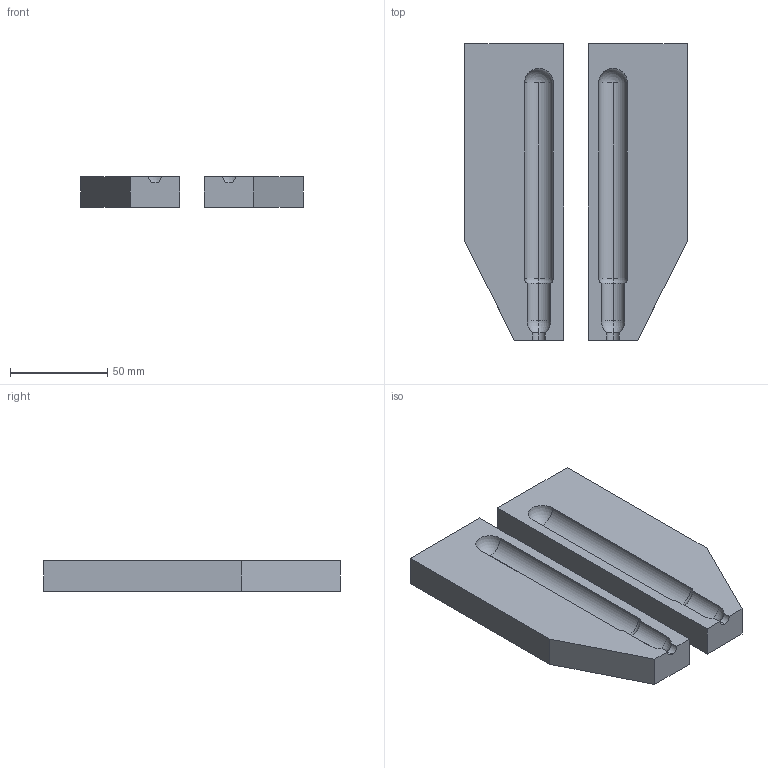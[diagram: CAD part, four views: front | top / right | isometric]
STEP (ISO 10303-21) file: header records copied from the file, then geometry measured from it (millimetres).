
FILE_DESCRIPTION (( 'STEP AP203' ), '1' );
FILE_NAME ('Sharpie_02_oversized.STEP', '2017-08-31T15:49:01', ( '' ), ( '' ), 'SwSTEP 2.0', 'SolidWorks 2015', '' );
FILE_SCHEMA (( 'CONFIG_CONTROL_DESIGN' ));
Length unit declared in the file: inch
Products named in the file (1): Sharpie_02_oversized
Bounding box: 114.3 x 152.4 x 15.88 mm (x, y, z)
Volume: 204035.5 mm3; surface area: 42950.9 mm2
Topology: 2 solids, 2 shells, 36 faces, 90 edges, 56 vertices
Faces by surface type: plane 14, cylinder 12, torus 8, sphere 2
Entity records: 1143 total; most frequent: DIRECTION 200, CARTESIAN_POINT 181, ORIENTED_EDGE 176, EDGE_CURVE 88, AXIS2_PLACEMENT_3D 75, VERTEX_POINT 56, VECTOR 50, LINE 50
